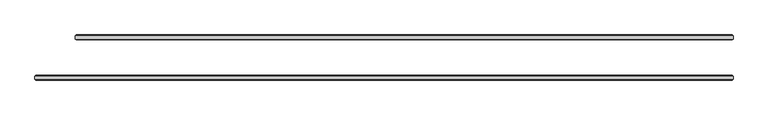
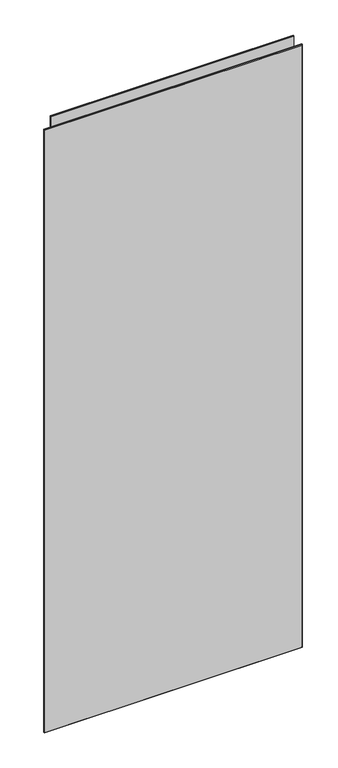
"""IFC4 building model written with IfcOpenShell, lengths in millimetres: plate geometry, 3-AMG-2-Панель двойной витраж 8, 10 : Смещение 32 Толщина 8mm."""

from ifc_helpers import new_model, si_unit, origin, place, context, project, spatial, faceted_brep, source, transform, mapped, element, save


def plate_3ea5d1ad(model_context):
    return source(origin(), model_context, "Body", "Brep", [
        faceted_brep([(539.45, -34.4961653, 2722.8), (539.45, -29.5038347, 2722.8), (-565.45, -29.5038347, 2722.8), (-565.45, -34.4961653, 2722.8), (539.45, -29.5038347, -7.0), (539.45, -34.4961653, -7.0), (-565.45, -34.4961653, -7.0), (-565.45, -29.5038347, -7.0), (-563.9461653, -28.0, 2721.2961653), (537.9461653, -28.0, 2721.2961653), (537.9461653, -28.0, -5.5039422), (-563.9461653, -28.0, -5.5039422), (537.9461653, -36.0, 2721.2961653), (-563.9461653, -36.0, 2721.2961653), (-563.9461653, -36.0, -5.4961653), (537.9461653, -36.0, -5.4961653)], [[[0, 1, 2, 3]], [[4, 5, 6, 7]], [[8, 9, 10, 11]], [[3, 2, 7, 6]], [[12, 13, 14, 15]], [[1, 0, 5, 4]], [[1, 4, 10, 9]], [[5, 0, 12, 15]], [[0, 3, 13, 12]], [[2, 1, 9, 8]], [[7, 2, 8, 11]], [[3, 6, 14, 13]], [[6, 5, 15, 14]], [[4, 7, 11, 10]]]),
        faceted_brep([(539.45, 29.5038347, 2722.8), (539.45, 34.4961653, 2722.8), (-501.45, 34.4961653, 2722.8), (-501.45, 29.5038347, 2722.8), (539.45, 34.4961653, -7.0), (539.45, 29.5038347, -7.0), (-501.45, 29.5038347, -7.0), (-501.45, 34.4961653, -7.0), (-499.9461653, 36.0, 2721.2961653), (537.9461653, 36.0, 2721.2961653), (537.9461653, 36.0, -5.5039422), (-499.9461653, 36.0, -5.5039422), (537.9461653, 28.0, 2721.2961653), (-499.9461653, 28.0, 2721.2961653), (-499.9461653, 28.0, -5.4961653), (537.9461653, 28.0, -5.4961653)], [[[0, 1, 2, 3]], [[4, 5, 6, 7]], [[8, 9, 10, 11]], [[3, 2, 7, 6]], [[12, 13, 14, 15]], [[1, 0, 5, 4]], [[1, 4, 10, 9]], [[5, 0, 12, 15]], [[7, 2, 8, 11]], [[3, 6, 14, 13]], [[0, 3, 13, 12]], [[2, 1, 9, 8]], [[6, 5, 15, 14]], [[4, 7, 11, 10]]]),
    ])


if __name__ == "__main__":
    model = new_model("IFC4")
    model_context = context("Model", 3, world=origin())
    ifc_project = project(units=[si_unit("LENGTHUNIT", "METRE", prefix="MILLI")], contexts=[model_context])
    site = spatial("IfcSite", under=ifc_project)
    building = spatial("IfcBuilding", under=site)
    placement = place(None, origin())
    plate_shape = plate_3ea5d1ad(model_context)
    element("IfcPlate", 1, ObjectType="3-AMG-2-Панель двойной витраж 8, 10 : Смещение 32 Толщина 8mm", at=placement, inside=building, context=model_context, shape_type="MappedRepresentation", body=[
        mapped(plate_shape, transform((0.0, 0.0, 0.0), x_axis=(1.0, 0.0, 0.0), y_axis=(0.0, 1.0, 0.0), z_axis=(0.0, 0.0, 1.0))),
    ])
    save(model, "model.ifc")
